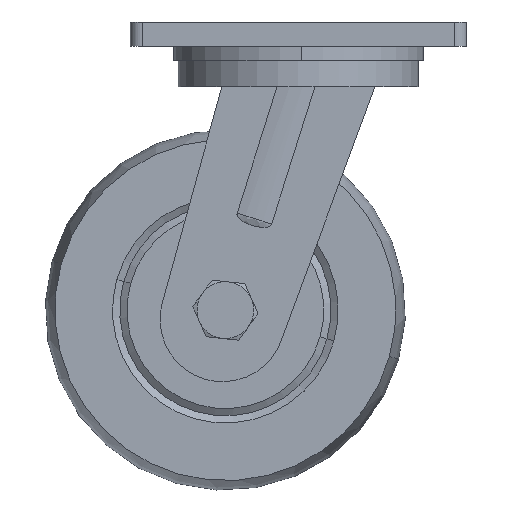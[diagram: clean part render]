
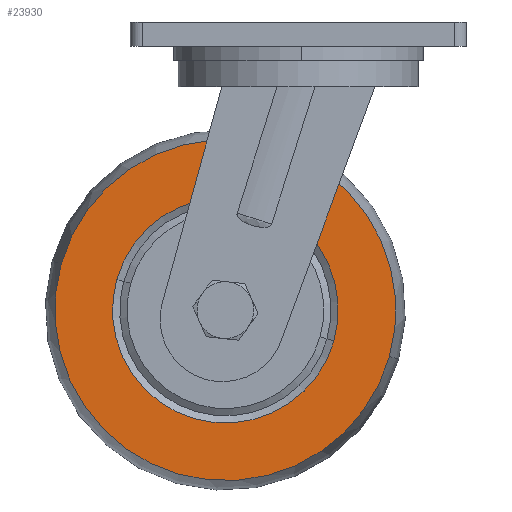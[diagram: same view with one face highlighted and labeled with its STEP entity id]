
A CAD part, front view. The second image highlights one B-rep face of the part: STEP entity #23930.
In plain terms, the highlighted planar face has unit normal (0, -1, 0).
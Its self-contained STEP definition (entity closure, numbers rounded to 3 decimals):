
#367 = DIRECTION ( 'NONE',  ( 0., -1., 0. ) ) ;
#446 = CARTESIAN_POINT ( 'NONE',  ( 0., 0., 0. ) ) ;
#774 = EDGE_CURVE ( 'NONE', #6211, #15027, #13288, .T. ) ;
#806 = ORIENTED_EDGE ( 'NONE', *, *, #18521, .T. ) ;
#1006 = DIRECTION ( 'NONE',  ( 0., 0., -1. ) ) ;
#1403 = ORIENTED_EDGE ( 'NONE', *, *, #22123, .F. ) ;
#1653 = CARTESIAN_POINT ( 'NONE',  ( 0., 0., 71. ) ) ;
#2446 = EDGE_LOOP ( 'NONE', ( #9639, #806 ) ) ;
#2710 = CARTESIAN_POINT ( 'NONE',  ( 0., 0., 0. ) ) ;
#3616 = PLANE ( 'NONE',  #8466 ) ;
#5998 = DIRECTION ( 'NONE',  ( 0., -1., 0. ) ) ;
#6211 = VERTEX_POINT ( 'NONE', #6297 ) ;
#6297 = CARTESIAN_POINT ( 'NONE',  ( 0., 0., -71. ) ) ;
#6384 = ORIENTED_EDGE ( 'NONE', *, *, #24490, .F. ) ;
#6830 = CIRCLE ( 'NONE', #20461, 47. ) ;
#7414 = CARTESIAN_POINT ( 'NONE',  ( 0., 0., 0. ) ) ;
#7621 = DIRECTION ( 'NONE',  ( 0., 0., -1. ) ) ;
#7806 = EDGE_LOOP ( 'NONE', ( #6384, #1403 ) ) ;
#8466 = AXIS2_PLACEMENT_3D ( 'NONE', #11525, #9580, #7621 ) ;
#8943 = CIRCLE ( 'NONE', #10905, 71. ) ;
#9179 = CIRCLE ( 'NONE', #15365, 47. ) ;
#9580 = DIRECTION ( 'NONE',  ( 0., -1., 0. ) ) ;
#9639 = ORIENTED_EDGE ( 'NONE', *, *, #774, .T. ) ;
#9792 = AXIS2_PLACEMENT_3D ( 'NONE', #14078, #5998, #26217 ) ;
#10683 = FACE_OUTER_BOUND ( 'NONE', #2446, .T. ) ;
#10905 = AXIS2_PLACEMENT_3D ( 'NONE', #2710, #15120, #1006 ) ;
#11525 = CARTESIAN_POINT ( 'NONE',  ( 47., 0., 0. ) ) ;
#11962 = FACE_BOUND ( 'NONE', #7806, .T. ) ;
#12272 = VERTEX_POINT ( 'NONE', #20302 ) ;
#13198 = VERTEX_POINT ( 'NONE', #19592 ) ;
#13288 = CIRCLE ( 'NONE', #9792, 71. ) ;
#14078 = CARTESIAN_POINT ( 'NONE',  ( 0., 0., 0. ) ) ;
#15027 = VERTEX_POINT ( 'NONE', #1653 ) ;
#15120 = DIRECTION ( 'NONE',  ( 0., -1., 0. ) ) ;
#15365 = AXIS2_PLACEMENT_3D ( 'NONE', #446, #367, #16388 ) ;
#16388 = DIRECTION ( 'NONE',  ( 0., 0., -1. ) ) ;
#17248 = DIRECTION ( 'NONE',  ( 0., -1., 0. ) ) ;
#18521 = EDGE_CURVE ( 'NONE', #15027, #6211, #8943, .T. ) ;
#19592 = CARTESIAN_POINT ( 'NONE',  ( 0., 0., 47. ) ) ;
#20302 = CARTESIAN_POINT ( 'NONE',  ( 0., 0., -47. ) ) ;
#20461 = AXIS2_PLACEMENT_3D ( 'NONE', #7414, #17248, #21645 ) ;
#21645 = DIRECTION ( 'NONE',  ( 0., 0., -1. ) ) ;
#22123 = EDGE_CURVE ( 'NONE', #13198, #12272, #9179, .T. ) ;
#23930 = ADVANCED_FACE ( 'NONE', ( #10683, #11962 ), #3616, .T. ) ;
#24490 = EDGE_CURVE ( 'NONE', #12272, #13198, #6830, .T. ) ;
#26217 = DIRECTION ( 'NONE',  ( 0., 0., -1. ) ) ;
